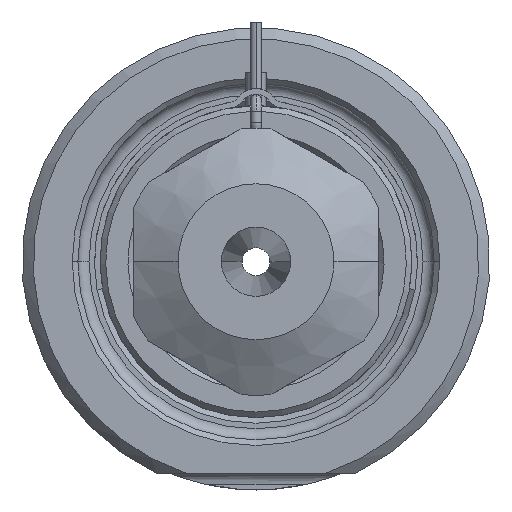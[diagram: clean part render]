
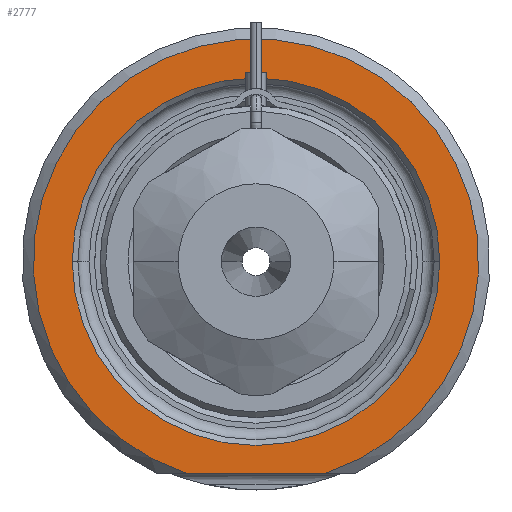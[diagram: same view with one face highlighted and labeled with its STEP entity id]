
A CAD part, front view. The second image highlights one B-rep face of the part: STEP entity #2777.
In plain terms, the highlighted planar face has unit normal (0, -1, 0).
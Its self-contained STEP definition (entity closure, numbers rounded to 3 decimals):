
#1=DIRECTION('',(1.,0.,0.));
#2=VECTOR('',#1,12.49);
#3=CARTESIAN_POINT('',(-6.245,0.,-19.));
#4=LINE('',#3,#2);
#5=CARTESIAN_POINT('',(0.,0.,0.));
#6=DIRECTION('',(0.,1.,0.));
#7=DIRECTION('',(-1.,0.,0.));
#8=AXIS2_PLACEMENT_3D('',#5,#6,#7);
#10=CARTESIAN_POINT('',(0.,0.,0.));
#11=DIRECTION('',(0.,1.,0.));
#12=DIRECTION('',(1.,0.,0.));
#13=AXIS2_PLACEMENT_3D('',#10,#11,#12);
#119=CARTESIAN_POINT('',(0.,0.,0.));
#120=DIRECTION('',(0.,-1.,0.));
#121=DIRECTION('',(0.312,0.,-0.95));
#122=AXIS2_PLACEMENT_3D('',#119,#120,#121);
#2318=CARTESIAN_POINT('',(-16.5,0.,0.));
#2319=CARTESIAN_POINT('',(16.5,0.,0.));
#2320=VERTEX_POINT('',#2318);
#2321=VERTEX_POINT('',#2319);
#2358=CARTESIAN_POINT('',(-6.245,0.,-19.));
#2359=CARTESIAN_POINT('',(6.245,0.,-19.));
#2360=VERTEX_POINT('',#2358);
#2361=VERTEX_POINT('',#2359);
#2760=CARTESIAN_POINT('',(0.,0.,0.));
#2761=DIRECTION('',(0.,-1.,0.));
#2762=DIRECTION('',(1.,0.,0.));
#2763=AXIS2_PLACEMENT_3D('',#2760,#2761,#2762);
#2764=PLANE('',#2763);
#2766=ORIENTED_EDGE('',*,*,#2765,.F.);
#2768=ORIENTED_EDGE('',*,*,#2767,.F.);
#2769=EDGE_LOOP('',(#2766,#2768));
#2770=FACE_OUTER_BOUND('',#2769,.F.);
#2772=ORIENTED_EDGE('',*,*,#2771,.F.);
#2774=ORIENTED_EDGE('',*,*,#2773,.F.);
#2775=EDGE_LOOP('',(#2772,#2774));
#2776=FACE_BOUND('',#2775,.F.);
#2777=ADVANCED_FACE('',(#2770,#2776),#2764,.T.);
#9=CIRCLE('',#8,16.5);
#14=CIRCLE('',#13,16.5);
#123=CIRCLE('',#122,20.);
#2765=EDGE_CURVE('',#2360,#2361,#4,.T.);
#2767=EDGE_CURVE('',#2361,#2360,#123,.T.);
#2771=EDGE_CURVE('',#2320,#2321,#9,.T.);
#2773=EDGE_CURVE('',#2321,#2320,#14,.T.);
